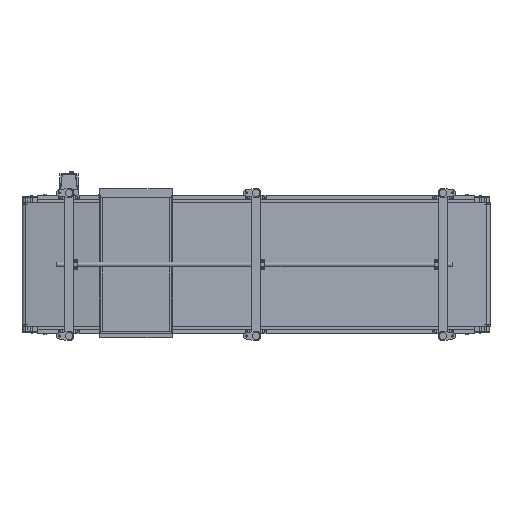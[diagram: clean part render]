
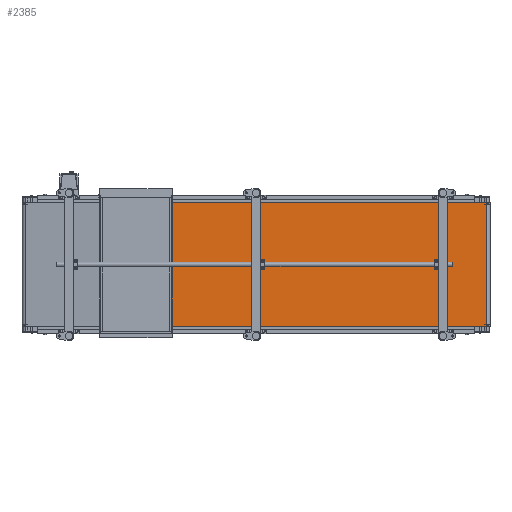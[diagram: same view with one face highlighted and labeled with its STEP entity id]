
A CAD part, front view. The second image highlights one B-rep face of the part: STEP entity #2385.
In plain terms, the highlighted planar face has unit normal (0.031, -1, 0).
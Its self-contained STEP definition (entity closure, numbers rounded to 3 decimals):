
#2385=ADVANCED_FACE('',(#7989),#7988,.F.);
#7988=PLANE('',#20449);
#7989=FACE_OUTER_BOUND('',#20450,.T.);
#20446=CARTESIAN_POINT('',(767.005,-116.008,410.));
#20447=DIRECTION('',(-0.031,1.,0.));
#20448=DIRECTION('',(1.,0.031,0.));
#20449=AXIS2_PLACEMENT_3D('',#20446,#20447,#20448);
#20450=EDGE_LOOP('',(#28775,#28776,#28777,#28778));
#28775=ORIENTED_EDGE('',*,*,#34664,.T.);
#28776=ORIENTED_EDGE('',*,*,#34665,.F.);
#28777=ORIENTED_EDGE('',*,*,#34666,.F.);
#28778=ORIENTED_EDGE('',*,*,#34662,.T.);
#34662=EDGE_CURVE('',#44330,#44323,#44331,.T.);
#34664=EDGE_CURVE('',#44323,#44343,#44344,.T.);
#34665=EDGE_CURVE('',#44350,#44343,#44351,.T.);
#34666=EDGE_CURVE('',#44330,#44350,#44357,.T.);
#44323=VERTEX_POINT('',#64536);
#44330=VERTEX_POINT('',#64541);
#44331=LINE('',#64542,#64543);
#44343=VERTEX_POINT('',#64549);
#44344=LINE('',#64550,#64551);
#44350=VERTEX_POINT('',#64553);
#44351=LINE('',#64554,#64555);
#44357=LINE('',#64557,#64558);
#64536=CARTESIAN_POINT('',(2976.485,-47.988,400.));
#64541=CARTESIAN_POINT('',(2976.485,-47.988,-400.));
#64542=CARTESIAN_POINT('',(2976.485,-47.988,-400.));
#64543=VECTOR('',#64544,800.);
#64544=DIRECTION('',(0.,0.,1.));
#64549=CARTESIAN_POINT('',(777.,-115.7,400.));
#64550=CARTESIAN_POINT('',(2976.485,-47.988,400.));
#64551=VECTOR('',#64552,2200.527);
#64552=DIRECTION('',(-1.,-0.031,0.));
#64553=CARTESIAN_POINT('',(777.,-115.7,-400.));
#64554=CARTESIAN_POINT('',(777.,-115.7,-400.));
#64555=VECTOR('',#64556,800.);
#64556=DIRECTION('',(0.,0.,1.));
#64557=CARTESIAN_POINT('',(2976.485,-47.988,-400.));
#64558=VECTOR('',#64559,2200.527);
#64559=DIRECTION('',(-1.,-0.031,0.));
